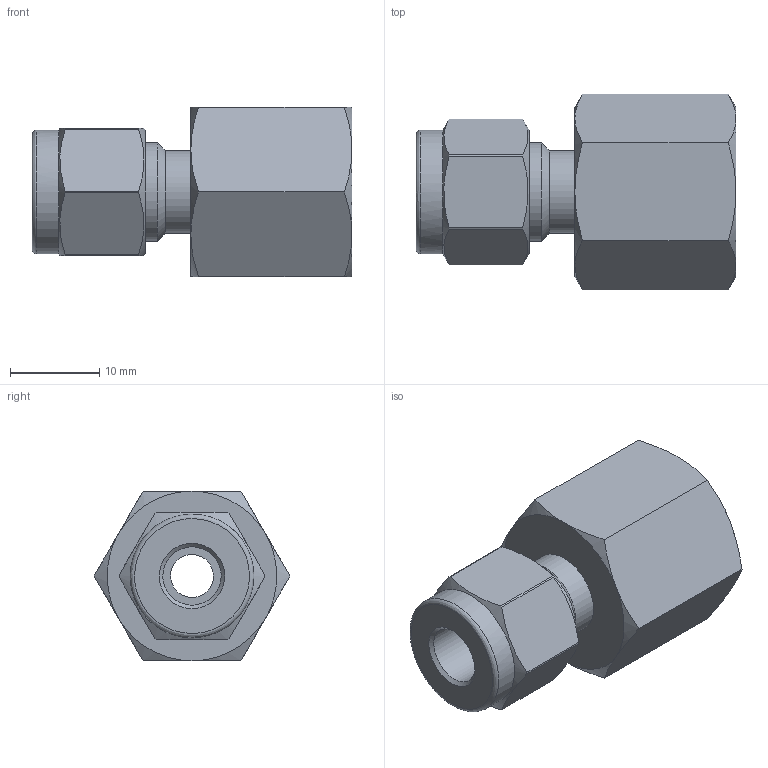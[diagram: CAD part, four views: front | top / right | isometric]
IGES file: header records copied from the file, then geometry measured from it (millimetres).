
Global section: file name: SFC-4-4N; native system: Autodesk Inventor 2016; preprocessor: unknown; author: 배성훈,,11,0; organization: 20150901.011717; date: 20151019.102051; units: millimetre
Bounding box: 35.94 x 22 x 19.05 mm (x, y, z)
Volume: 6029.2 mm3; surface area: 3572.9 mm2
Topology: 1 solids, 1 shells, 50 faces, 131 edges, 87 vertices
Faces by surface type: bspline 50
